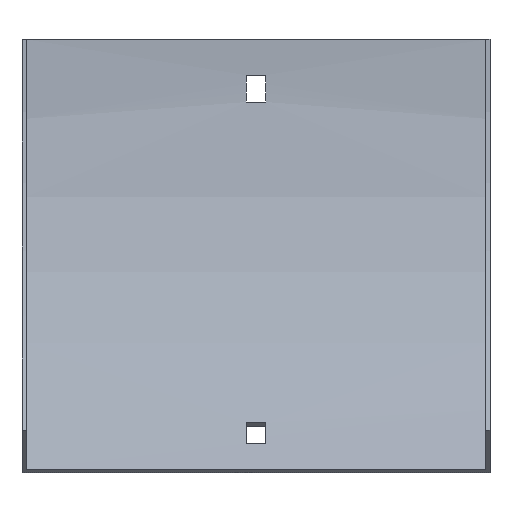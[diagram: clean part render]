
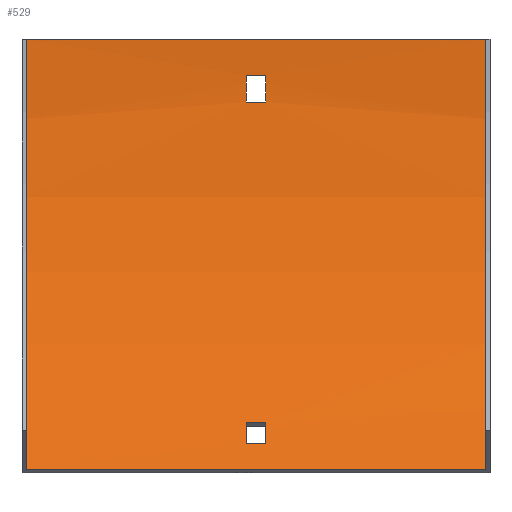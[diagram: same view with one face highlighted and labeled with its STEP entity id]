
A CAD part, front view. The second image highlights one B-rep face of the part: STEP entity #529.
In plain terms, the highlighted cylindrical face has radius 204 mm (diameter 408 mm), a partial arc.
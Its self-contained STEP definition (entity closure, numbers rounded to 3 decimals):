
#3 = EDGE_LOOP ( 'NONE', ( #291, #196, #432, #375 ) ) ;
#4 = FACE_BOUND ( 'NONE', #299, .T. ) ;
#8 = LINE ( 'NONE', #20, #406 ) ;
#16 = DIRECTION ( 'NONE',  ( -1., 0., 0. ) ) ;
#20 = CARTESIAN_POINT ( 'NONE',  ( 78.5, -2.584, -21. ) ) ;
#30 = DIRECTION ( 'NONE',  ( 1., 0., 0. ) ) ;
#33 = CARTESIAN_POINT ( 'NONE',  ( 77., -205.5, 0. ) ) ;
#34 = DIRECTION ( 'NONE',  ( 1., 0., 0. ) ) ;
#35 = DIRECTION ( 'NONE',  ( -1., 0., 0. ) ) ;
#41 = DIRECTION ( 'NONE',  ( 0., 0., 1. ) ) ;
#53 = ORIENTED_EDGE ( 'NONE', *, *, #277, .F. ) ;
#56 = ORIENTED_EDGE ( 'NONE', *, *, #520, .T. ) ;
#57 = DIRECTION ( 'NONE',  ( 0., 0., 1. ) ) ;
#62 = EDGE_CURVE ( 'NONE', #228, #366, #259, .T. ) ;
#64 = CARTESIAN_POINT ( 'NONE',  ( 3.25, -2.584, -21. ) ) ;
#66 = EDGE_CURVE ( 'NONE', #366, #182, #583, .T. ) ;
#77 = DIRECTION ( 'NONE',  ( -1., 0., 0. ) ) ;
#79 = AXIS2_PLACEMENT_3D ( 'NONE', #148, #198, #604 ) ;
#85 = LINE ( 'NONE', #263, #482 ) ;
#96 = VERTEX_POINT ( 'NONE', #260 ) ;
#100 = AXIS2_PLACEMENT_3D ( 'NONE', #264, #493, #588 ) ;
#104 = CARTESIAN_POINT ( 'NONE',  ( -3.25, -53.015, -135.515 ) ) ;
#105 = CARTESIAN_POINT ( 'NONE',  ( 78.5, -205.5, 0. ) ) ;
#109 = CARTESIAN_POINT ( 'NONE',  ( 3.25, -1.853, -12. ) ) ;
#111 = VECTOR ( 'NONE', #77, 1000. ) ;
#112 = AXIS2_PLACEMENT_3D ( 'NONE', #105, #229, #57 ) ;
#131 = EDGE_CURVE ( 'NONE', #348, #96, #490, .T. ) ;
#132 = LINE ( 'NONE', #486, #516 ) ;
#141 = CARTESIAN_POINT ( 'NONE',  ( 3.25, -53.015, -135.515 ) ) ;
#146 = EDGE_CURVE ( 'NONE', #597, #419, #573, .T. ) ;
#148 = CARTESIAN_POINT ( 'NONE',  ( -3.25, -205.5, 0. ) ) ;
#173 = VERTEX_POINT ( 'NONE', #309 ) ;
#179 = VECTOR ( 'NONE', #492, 1000. ) ;
#182 = VERTEX_POINT ( 'NONE', #370 ) ;
#191 = EDGE_CURVE ( 'NONE', #323, #348, #132, .T. ) ;
#194 = DIRECTION ( 'NONE',  ( 1., 0., 0. ) ) ;
#195 = ORIENTED_EDGE ( 'NONE', *, *, #66, .T. ) ;
#196 = ORIENTED_EDGE ( 'NONE', *, *, #338, .F. ) ;
#198 = DIRECTION ( 'NONE',  ( -1., 0., 0. ) ) ;
#206 = CARTESIAN_POINT ( 'NONE',  ( -3.25, -1.853, -12. ) ) ;
#208 = ORIENTED_EDGE ( 'NONE', *, *, #191, .T. ) ;
#210 = VECTOR ( 'NONE', #16, 1000. ) ;
#228 = VERTEX_POINT ( 'NONE', #418 ) ;
#229 = DIRECTION ( 'NONE',  ( -1., 0., 0. ) ) ;
#240 = EDGE_CURVE ( 'NONE', #452, #458, #334, .T. ) ;
#246 = AXIS2_PLACEMENT_3D ( 'NONE', #317, #194, #356 ) ;
#247 = CIRCLE ( 'NONE', #397, 204. ) ;
#250 = DIRECTION ( 'NONE',  ( 1., 0., 0. ) ) ;
#259 = CIRCLE ( 'NONE', #439, 204. ) ;
#260 = CARTESIAN_POINT ( 'NONE',  ( -3.25, -47.167, -128.634 ) ) ;
#263 = CARTESIAN_POINT ( 'NONE',  ( 78.5, -47.167, -128.634 ) ) ;
#264 = CARTESIAN_POINT ( 'NONE',  ( 3.25, -205.5, 0. ) ) ;
#272 = CARTESIAN_POINT ( 'NONE',  ( 78.5, -1.853, -12. ) ) ;
#277 = EDGE_CURVE ( 'NONE', #173, #182, #535, .T. ) ;
#285 = CARTESIAN_POINT ( 'NONE',  ( 77., -61.25, -144.25 ) ) ;
#290 = CARTESIAN_POINT ( 'NONE',  ( -3.25, -2.584, -21. ) ) ;
#291 = ORIENTED_EDGE ( 'NONE', *, *, #240, .F. ) ;
#299 = EDGE_LOOP ( 'NONE', ( #208, #467, #519, #56 ) ) ;
#300 = DIRECTION ( 'NONE',  ( 1., 0., 0. ) ) ;
#309 = CARTESIAN_POINT ( 'NONE',  ( -77., -61.25, -144.25 ) ) ;
#317 = CARTESIAN_POINT ( 'NONE',  ( -3.25, -205.5, 0. ) ) ;
#323 = VERTEX_POINT ( 'NONE', #141 ) ;
#324 = FACE_OUTER_BOUND ( 'NONE', #518, .T. ) ;
#334 = CIRCLE ( 'NONE', #79, 204. ) ;
#338 = EDGE_CURVE ( 'NONE', #419, #452, #498, .T. ) ;
#348 = VERTEX_POINT ( 'NONE', #104 ) ;
#356 = DIRECTION ( 'NONE',  ( 0., 0., -1. ) ) ;
#362 = FACE_BOUND ( 'NONE', #3, .T. ) ;
#366 = VERTEX_POINT ( 'NONE', #508 ) ;
#370 = CARTESIAN_POINT ( 'NONE',  ( -77., -1.5, 0. ) ) ;
#375 = ORIENTED_EDGE ( 'NONE', *, *, #437, .F. ) ;
#378 = AXIS2_PLACEMENT_3D ( 'NONE', #485, #300, #483 ) ;
#397 = AXIS2_PLACEMENT_3D ( 'NONE', #451, #446, #41 ) ;
#404 = DIRECTION ( 'NONE',  ( 0., 0., 1. ) ) ;
#406 = VECTOR ( 'NONE', #250, 1000. ) ;
#418 = CARTESIAN_POINT ( 'NONE',  ( 77., -61.25, -144.25 ) ) ;
#419 = VERTEX_POINT ( 'NONE', #109 ) ;
#432 = ORIENTED_EDGE ( 'NONE', *, *, #146, .F. ) ;
#437 = EDGE_CURVE ( 'NONE', #458, #597, #8, .T. ) ;
#439 = AXIS2_PLACEMENT_3D ( 'NONE', #33, #30, #404 ) ;
#446 = DIRECTION ( 'NONE',  ( -1., 0., 0. ) ) ;
#451 = CARTESIAN_POINT ( 'NONE',  ( 3.25, -205.5, 0. ) ) ;
#452 = VERTEX_POINT ( 'NONE', #206 ) ;
#458 = VERTEX_POINT ( 'NONE', #290 ) ;
#461 = EDGE_CURVE ( 'NONE', #228, #173, #513, .T. ) ;
#467 = ORIENTED_EDGE ( 'NONE', *, *, #131, .T. ) ;
#482 = VECTOR ( 'NONE', #34, 1000. ) ;
#483 = DIRECTION ( 'NONE',  ( 0., 0., 1. ) ) ;
#484 = CARTESIAN_POINT ( 'NONE',  ( 3.25, -47.167, -128.634 ) ) ;
#485 = CARTESIAN_POINT ( 'NONE',  ( -77., -205.5, 0. ) ) ;
#486 = CARTESIAN_POINT ( 'NONE',  ( 78.5, -53.015, -135.515 ) ) ;
#490 = CIRCLE ( 'NONE', #246, 204. ) ;
#492 = DIRECTION ( 'NONE',  ( -1., 0., 0. ) ) ;
#493 = DIRECTION ( 'NONE',  ( 1., 0., 0. ) ) ;
#498 = LINE ( 'NONE', #272, #179 ) ;
#508 = CARTESIAN_POINT ( 'NONE',  ( 77., -1.5, 0. ) ) ;
#513 = LINE ( 'NONE', #285, #210 ) ;
#516 = VECTOR ( 'NONE', #35, 1000. ) ;
#518 = EDGE_LOOP ( 'NONE', ( #53, #572, #602, #195 ) ) ;
#519 = ORIENTED_EDGE ( 'NONE', *, *, #570, .T. ) ;
#520 = EDGE_CURVE ( 'NONE', #543, #323, #247, .T. ) ;
#527 = CARTESIAN_POINT ( 'NONE',  ( 77., -1.5, 0. ) ) ;
#529 = ADVANCED_FACE ( 'NONE', ( #362, #324, #4 ), #581, .F. ) ;
#535 = CIRCLE ( 'NONE', #378, 204. ) ;
#543 = VERTEX_POINT ( 'NONE', #484 ) ;
#570 = EDGE_CURVE ( 'NONE', #96, #543, #85, .T. ) ;
#572 = ORIENTED_EDGE ( 'NONE', *, *, #461, .F. ) ;
#573 = CIRCLE ( 'NONE', #100, 204. ) ;
#581 = CYLINDRICAL_SURFACE ( 'NONE', #112, 204. ) ;
#583 = LINE ( 'NONE', #527, #111 ) ;
#588 = DIRECTION ( 'NONE',  ( 0., 0., -1. ) ) ;
#597 = VERTEX_POINT ( 'NONE', #64 ) ;
#602 = ORIENTED_EDGE ( 'NONE', *, *, #62, .T. ) ;
#604 = DIRECTION ( 'NONE',  ( 0., 0., 1. ) ) ;
